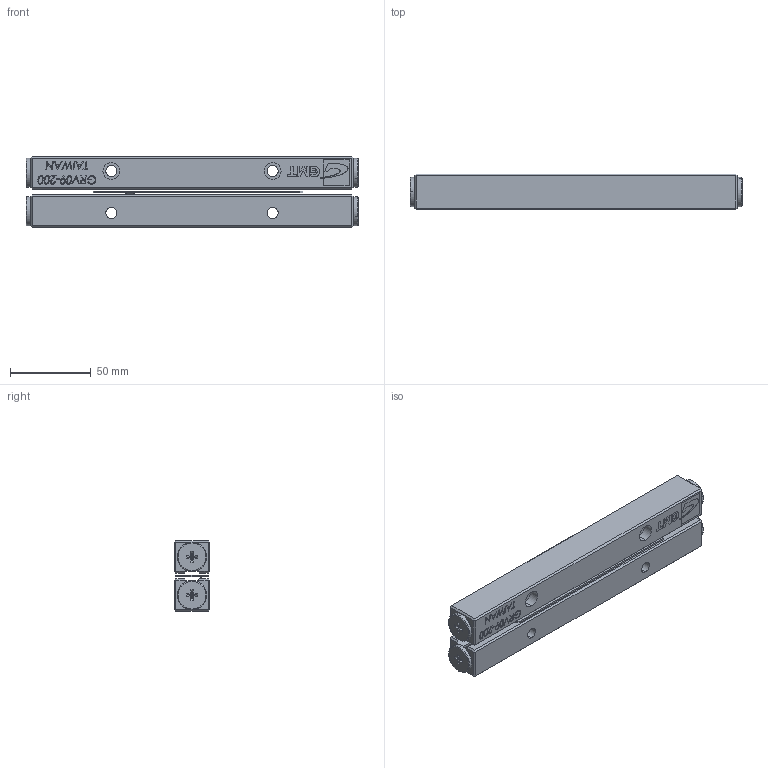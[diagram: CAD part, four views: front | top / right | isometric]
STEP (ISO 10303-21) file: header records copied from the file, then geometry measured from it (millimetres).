
FILE_DESCRIPTION (( 'STEP AP203' ), '1' );
FILE_NAME ('GRV09-200.STEP', '2012-10-17T04:01:55', ( '123' ), ( '' ), 'SwSTEP 2.0', 'SolidWorks 2012', '' );
FILE_SCHEMA (( 'CONFIG_CONTROL_DESIGN' ));
Length unit declared in the file: millimetre
Products named in the file (1): GRV09-200
Bounding box: 206 x 22 x 44 mm (x, y, z)
Surface area: 44053.9 mm2 (no closed solid volume)
Topology: 0 solids, 19 shells, 346 faces, 1659 edges, 1300 vertices
Faces by surface type: plane 263, cylinder 41, torus 16, bspline 14, cone 12
Entity records: 20878 total; most frequent: CARTESIAN_POINT 8268, DIRECTION 2335, ORIENTED_EDGE 2322, EDGE_CURVE 1655, VERTEX_POINT 1300, VECTOR 1073, LINE 1073, AXIS2_PLACEMENT_3D 631
